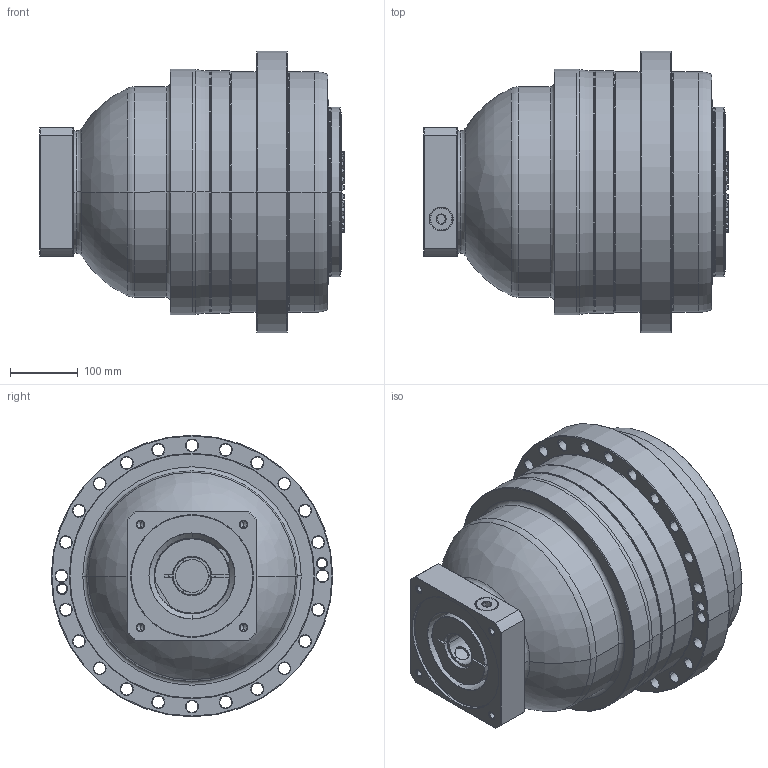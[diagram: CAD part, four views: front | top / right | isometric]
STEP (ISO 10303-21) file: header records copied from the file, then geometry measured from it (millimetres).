
FILE_DESCRIPTION((''),'2;1');
FILE_NAME('APC355_3ST_48-P0409B10201_ASM','2018-11-01T',('d01226'),(''),'PRO/ENGINEER BY PARAMETRIC TECHNOLOGY CORPORATION, 2015240','PRO/ENGINEER BY PARAMETRIC TECHNOLOGY CORPORATION, 2015240','');
FILE_SCHEMA(('CONFIG_CONTROL_DESIGN'));
Length unit declared in the file: millimetre
Products named in the file (9): P0276101003; P03571G0103; P1366900401; P0503B00016; P0912604001; P1222100001; P0409B10201; 21711426021; APC355_3ST_48-P0409B10201_ASM
Assembly tree (8 placements, depth 2):
  APC355_3ST_48-P0409B10201_ASM
    P0276101003
    P03571G0103
    P1366900401
    P0503B00016
    P0912604001
    P1222100001
    P0409B10201
    21711426021
Bounding box: 448.6 x 415 x 415 mm (x, y, z)
Volume: 38969069.3 mm3; surface area: 1409991.9 mm2
Topology: 9 solids, 22 shells, 844 faces, 2093 edges, 1283 vertices
Faces by surface type: cone 276, cylinder 249, plane 161, torus 144, bspline 14
Entity records: 31724 total; most frequent: CARTESIAN_POINT 11335, DIRECTION 4519, ORIENTED_EDGE 4084, EDGE_CURVE 2067, AXIS2_PLACEMENT_3D 1965, VERTEX_POINT 1283, CIRCLE 1106, EDGE_LOOP 952
